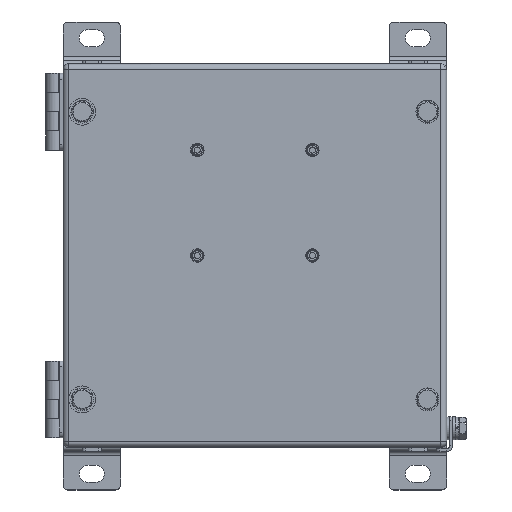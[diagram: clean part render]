
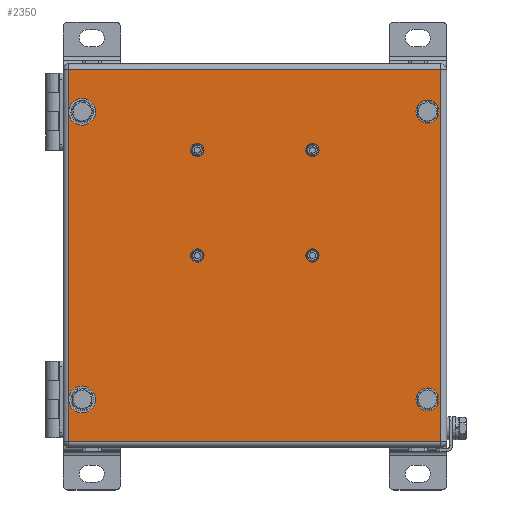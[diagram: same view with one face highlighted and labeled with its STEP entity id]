
A CAD part, top view. The second image highlights one B-rep face of the part: STEP entity #2350.
In plain terms, the highlighted planar face has unit normal (0, 0, 1).
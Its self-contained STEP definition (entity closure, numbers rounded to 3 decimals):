
#1824=CARTESIAN_POINT('',(97.0,-97.,120.0));
#1825=VERTEX_POINT('',#1824);
#1891=CARTESIAN_POINT('',(97.0,97.,120.));
#1892=VERTEX_POINT('',#1891);
#1958=CARTESIAN_POINT('',(-97.0,-97.,120.));
#1959=VERTEX_POINT('',#1958);
#2031=CARTESIAN_POINT('',(97.,-97.,120.));
#2032=DIRECTION('',(-1.0,0.0,0.0));
#2033=VECTOR('',#2032,194.0);
#2034=LINE('',#2031,#2033);
#2035=EDGE_CURVE('',#1825,#1959,#2034,.T.);
#2047=CARTESIAN_POINT('',(-97.0,97.,120.));
#2048=VERTEX_POINT('',#2047);
#2120=CARTESIAN_POINT('',(-97.0,-97.0,120.));
#2121=DIRECTION('',(0.0,1.0,0.0));
#2122=VECTOR('',#2121,194.0);
#2123=LINE('',#2120,#2122);
#2124=EDGE_CURVE('',#1959,#2048,#2123,.T.);
#2142=CARTESIAN_POINT('',(-97.0,97.,120.));
#2143=DIRECTION('',(1.0,0.0,0.0));
#2144=VECTOR('',#2143,194.0);
#2145=LINE('',#2142,#2144);
#2146=EDGE_CURVE('',#2048,#1892,#2145,.T.);
#2164=CARTESIAN_POINT('',(97.0,97.,120.));
#2165=DIRECTION('',(0.0,-1.0,0.0));
#2166=VECTOR('',#2165,194.0);
#2167=LINE('',#2164,#2166);
#2168=EDGE_CURVE('',#1892,#1825,#2167,.T.);
#2251=CARTESIAN_POINT('',(0.,0.,120.));
#2252=DIRECTION('',(0.0,0.0,1.0));
#2253=DIRECTION('',(1.0,0.0,0.0));
#2254=AXIS2_PLACEMENT_3D('',#2251,#2252,#2253);
#2255=PLANE('',#2254);
#2256=ORIENTED_EDGE('',*,*,#2035,.F.);
#2257=ORIENTED_EDGE('',*,*,#2168,.F.);
#2258=ORIENTED_EDGE('',*,*,#2146,.F.);
#2259=ORIENTED_EDGE('',*,*,#2124,.F.);
#2260=EDGE_LOOP('',(#2256,#2257,#2258,#2259));
#2261=FACE_OUTER_BOUND('',#2260,.T.);
#2262=CARTESIAN_POINT('',(-86.25,75.,120.));
#2263=VERTEX_POINT('',#2262);
#2264=CARTESIAN_POINT('',(-90.0,75.,120.));
#2265=DIRECTION('',(0.0,0.0,-1.0));
#2266=DIRECTION('',(-1.0,0.0,0.0));
#2267=AXIS2_PLACEMENT_3D('',#2264,#2265,#2266);
#2268=CIRCLE('',#2267,3.75);
#2269=EDGE_CURVE('',#2263,#2263,#2268,.T.);
#2270=ORIENTED_EDGE('',*,*,#2269,.T.);
#2271=EDGE_LOOP('',(#2270));
#2272=FACE_BOUND('',#2271,.T.);
#2273=CARTESIAN_POINT('',(93.75,75.,120.));
#2274=VERTEX_POINT('',#2273);
#2275=CARTESIAN_POINT('',(90.0,75.,120.));
#2276=DIRECTION('',(0.0,0.0,-1.0));
#2277=DIRECTION('',(-1.0,0.0,0.0));
#2278=AXIS2_PLACEMENT_3D('',#2275,#2276,#2277);
#2279=CIRCLE('',#2278,3.75);
#2280=EDGE_CURVE('',#2274,#2274,#2279,.T.);
#2281=ORIENTED_EDGE('',*,*,#2280,.T.);
#2282=EDGE_LOOP('',(#2281));
#2283=FACE_BOUND('',#2282,.T.);
#2284=CARTESIAN_POINT('',(-86.25,-75.,120.));
#2285=VERTEX_POINT('',#2284);
#2286=CARTESIAN_POINT('',(-90.0,-75.,120.));
#2287=DIRECTION('',(0.0,0.0,-1.0));
#2288=DIRECTION('',(-1.0,0.0,0.0));
#2289=AXIS2_PLACEMENT_3D('',#2286,#2287,#2288);
#2290=CIRCLE('',#2289,3.75);
#2291=EDGE_CURVE('',#2285,#2285,#2290,.T.);
#2292=ORIENTED_EDGE('',*,*,#2291,.T.);
#2293=EDGE_LOOP('',(#2292));
#2294=FACE_BOUND('',#2293,.T.);
#2295=CARTESIAN_POINT('',(93.75,-75.,120.));
#2296=VERTEX_POINT('',#2295);
#2297=CARTESIAN_POINT('',(90.0,-75.,120.));
#2298=DIRECTION('',(0.0,0.0,-1.0));
#2299=DIRECTION('',(-1.0,0.0,0.0));
#2300=AXIS2_PLACEMENT_3D('',#2297,#2298,#2299);
#2301=CIRCLE('',#2300,3.75);
#2302=EDGE_CURVE('',#2296,#2296,#2301,.T.);
#2303=ORIENTED_EDGE('',*,*,#2302,.T.);
#2304=EDGE_LOOP('',(#2303));
#2305=FACE_BOUND('',#2304,.T.);
#2306=CARTESIAN_POINT('',(33.05,55.,120.));
#2307=VERTEX_POINT('',#2306);
#2308=CARTESIAN_POINT('',(30.,55.,120.));
#2309=DIRECTION('',(0.0,0.0,-1.0));
#2310=DIRECTION('',(-1.0,0.0,0.0));
#2311=AXIS2_PLACEMENT_3D('',#2308,#2309,#2310);
#2312=CIRCLE('',#2311,3.05);
#2313=EDGE_CURVE('',#2307,#2307,#2312,.T.);
#2314=ORIENTED_EDGE('',*,*,#2313,.T.);
#2315=EDGE_LOOP('',(#2314));
#2316=FACE_BOUND('',#2315,.T.);
#2317=CARTESIAN_POINT('',(-26.95,55.,120.));
#2318=VERTEX_POINT('',#2317);
#2319=CARTESIAN_POINT('',(-30.,55.,120.));
#2320=DIRECTION('',(0.0,0.0,-1.0));
#2321=DIRECTION('',(-1.0,0.0,0.0));
#2322=AXIS2_PLACEMENT_3D('',#2319,#2320,#2321);
#2323=CIRCLE('',#2322,3.05);
#2324=EDGE_CURVE('',#2318,#2318,#2323,.T.);
#2325=ORIENTED_EDGE('',*,*,#2324,.T.);
#2326=EDGE_LOOP('',(#2325));
#2327=FACE_BOUND('',#2326,.T.);
#2328=CARTESIAN_POINT('',(-26.95,0.,120.));
#2329=VERTEX_POINT('',#2328);
#2330=CARTESIAN_POINT('',(-30.,0.,120.));
#2331=DIRECTION('',(0.0,0.0,-1.0));
#2332=DIRECTION('',(-1.0,0.0,0.0));
#2333=AXIS2_PLACEMENT_3D('',#2330,#2331,#2332);
#2334=CIRCLE('',#2333,3.05);
#2335=EDGE_CURVE('',#2329,#2329,#2334,.T.);
#2336=ORIENTED_EDGE('',*,*,#2335,.T.);
#2337=EDGE_LOOP('',(#2336));
#2338=FACE_BOUND('',#2337,.T.);
#2339=CARTESIAN_POINT('',(33.05,0.,120.));
#2340=VERTEX_POINT('',#2339);
#2341=CARTESIAN_POINT('',(30.,0.,120.));
#2342=DIRECTION('',(0.0,0.0,-1.0));
#2343=DIRECTION('',(-1.0,0.0,0.0));
#2344=AXIS2_PLACEMENT_3D('',#2341,#2342,#2343);
#2345=CIRCLE('',#2344,3.05);
#2346=EDGE_CURVE('',#2340,#2340,#2345,.T.);
#2347=ORIENTED_EDGE('',*,*,#2346,.T.);
#2348=EDGE_LOOP('',(#2347));
#2349=FACE_BOUND('',#2348,.T.);
#2350=ADVANCED_FACE('',(#2261,#2272,#2283,#2294,#2305,#2316,#2327,#2338,#2349),#2255,.T.);
